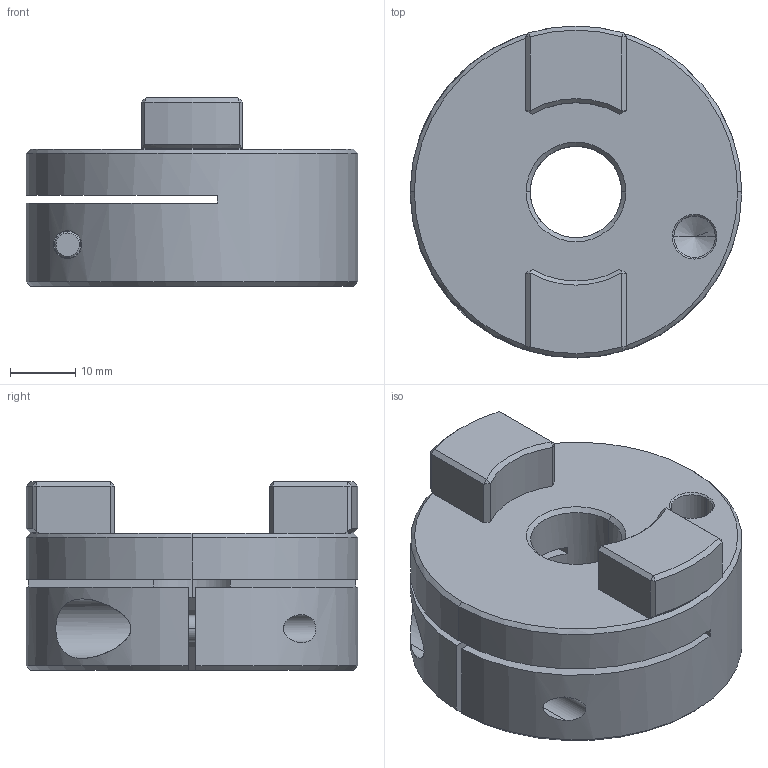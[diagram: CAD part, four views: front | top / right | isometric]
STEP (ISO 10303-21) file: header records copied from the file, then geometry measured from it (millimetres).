
FILE_DESCRIPTION((''),'2;1');
FILE_NAME('MOCT51-12-A','2016-09-09T',('SYSTEM'),(''),'PRO/ENGINEER BY PARAMETRIC TECHNOLOGY CORPORATION, 2015110','PRO/ENGINEER BY PARAMETRIC TECHNOLOGY CORPORATION, 2015110','');
FILE_SCHEMA(('AUTOMOTIVE_DESIGN { 1 0 10303 214 1 1 1 1 }'));
Length unit declared in the file: inch
Products named in the file (1): MOCT51-12-A
Bounding box: 50.8 x 50.8 x 28.83 mm (x, y, z)
Volume: 457.9 mm3; surface area: 12692.8 mm2
Topology: 1 solids, 2 shells, 93 faces, 223 edges, 134 vertices
Faces by surface type: plane 48, cylinder 23, cone 22
Entity records: 3511 total; most frequent: CARTESIAN_POINT 622, DIRECTION 456, ORIENTED_EDGE 438, EDGE_CURVE 221, AXIS2_PLACEMENT_3D 164, VERTEX_POINT 134, VECTOR 128, LINE 128
